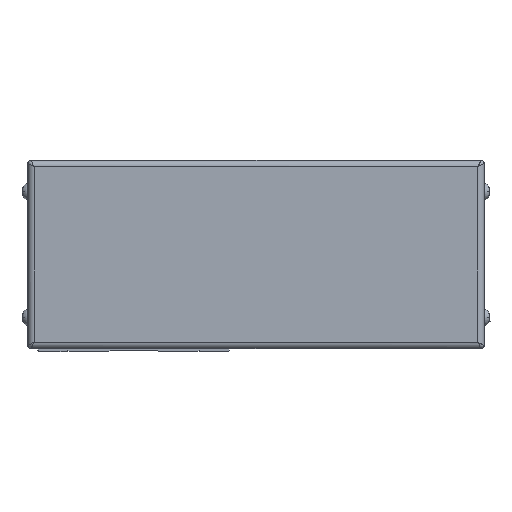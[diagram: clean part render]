
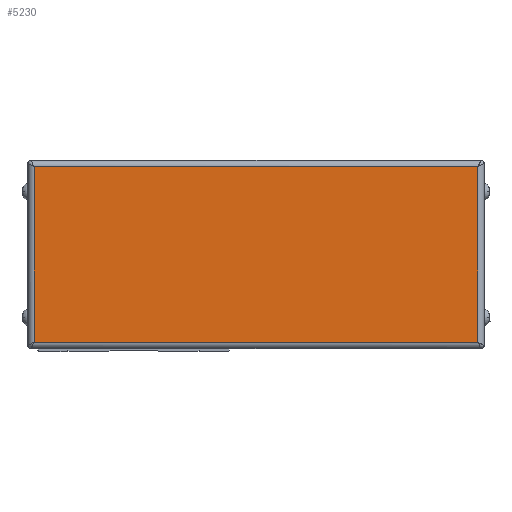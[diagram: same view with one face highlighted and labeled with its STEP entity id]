
A CAD part, left-side view. The second image highlights one B-rep face of the part: STEP entity #5230.
In plain terms, the highlighted planar face has unit normal (-1, 0, 0) as drawn and (0, 0, 1) by its records, which use the part's own axes.
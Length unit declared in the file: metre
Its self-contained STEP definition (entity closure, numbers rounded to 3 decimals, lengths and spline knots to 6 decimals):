
#5230=ADVANCED_FACE('',(#10697),#10698,.T.);
#10697=FACE_OUTER_BOUND('',#20156,.T.);
#10698=PLANE('',#20157);
#20156=EDGE_LOOP('',(#32706,#32707,#32708,#32709));
#20157=AXIS2_PLACEMENT_3D('',#32710,#32711,#32712);
#32706=ORIENTED_EDGE('',*,*,#43727,.F.);
#32707=ORIENTED_EDGE('',*,*,#43728,.F.);
#32708=ORIENTED_EDGE('',*,*,#42969,.F.);
#32709=ORIENTED_EDGE('',*,*,#42395,.F.);
#32710=CARTESIAN_POINT('',(-0.009,-0.053256,0.033889));
#32711=DIRECTION('',(0.0,0.0,1.0));
#32712=DIRECTION('',(1.0,0.0,0.0));
#42395=EDGE_CURVE('',#48873,#49874,#50855,.T.);
#42969=EDGE_CURVE('',#49874,#51669,#51670,.T.);
#43727=EDGE_CURVE('',#52664,#48873,#52665,.T.);
#43728=EDGE_CURVE('',#51669,#52664,#52666,.T.);
#48873=VERTEX_POINT('',#59650);
#49874=VERTEX_POINT('',#61324);
#50855=LINE('',#62888,#62889);
#51669=VERTEX_POINT('',#64148);
#51670=LINE('',#64149,#64150);
#52664=VERTEX_POINT('',#65668);
#52665=LINE('',#65669,#65670);
#52666=LINE('',#65671,#65672);
#59650=CARTESIAN_POINT('',(0.019,-0.123956,0.033889));
#61324=CARTESIAN_POINT('',(-0.037,-0.123956,0.033889));
#62888=CARTESIAN_POINT('',(-0.009,-0.123956,0.033889));
#62889=VECTOR('',#72221,1.0);
#64148=CARTESIAN_POINT('',(-0.037,0.017444,0.033889));
#64149=CARTESIAN_POINT('',(-0.037,-0.053256,0.033889));
#64150=VECTOR('',#72844,1.0);
#65668=CARTESIAN_POINT('',(0.019,0.017444,0.033889));
#65669=CARTESIAN_POINT('',(0.019,-0.053256,0.033889));
#65670=VECTOR('',#73608,1.0);
#65671=CARTESIAN_POINT('',(-0.009,0.017444,0.033889));
#65672=VECTOR('',#73609,1.0);
#72221=DIRECTION('',(-1.0,0.0,0.0));
#72844=DIRECTION('',(0.0,1.0,0.0));
#73608=DIRECTION('',(0.0,-1.0,0.0));
#73609=DIRECTION('',(1.0,0.0,0.0));
